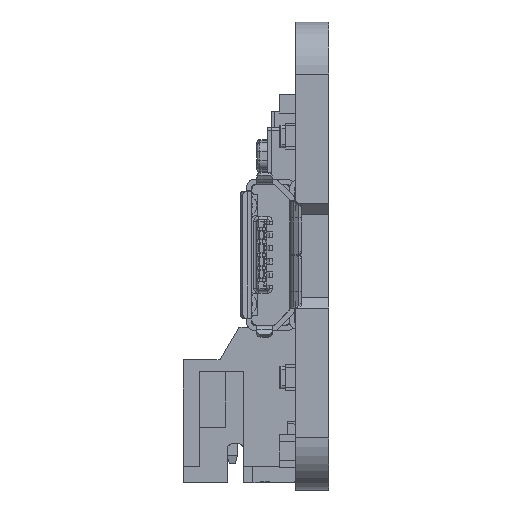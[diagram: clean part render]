
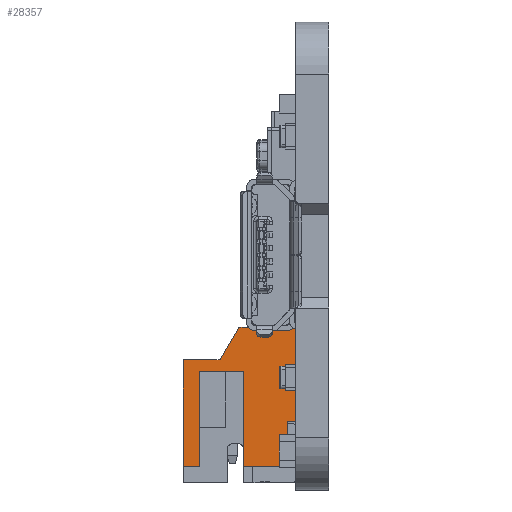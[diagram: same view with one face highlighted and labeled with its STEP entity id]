
A CAD part, left-side view. The second image highlights one B-rep face of the part: STEP entity #28357.
In plain terms, the highlighted planar face has unit normal (-1, 0, 0).
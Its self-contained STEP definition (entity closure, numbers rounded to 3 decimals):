
#485 = CARTESIAN_POINT ( 'NONE',  ( -18.555, 2.012, -11.074 ) ) ;
#1237 = LINE ( 'NONE', #485, #33543 ) ;
#1659 = CARTESIAN_POINT ( 'NONE',  ( -18.555, 7.112, -11.074 ) ) ;
#2902 = VECTOR ( 'NONE', #70101, 1000. ) ;
#2943 = EDGE_CURVE ( 'NONE', #24044, #7839, #72617, .T. ) ;
#3636 = ORIENTED_EDGE ( 'NONE', *, *, #55416, .F. ) ;
#4037 = CARTESIAN_POINT ( 'NONE',  ( -18.555, 2.012, -10.274 ) ) ;
#7839 = VERTEX_POINT ( 'NONE', #74209 ) ;
#8320 = CARTESIAN_POINT ( 'NONE',  ( -18.555, 6.317, -10.274 ) ) ;
#9697 = EDGE_CURVE ( 'NONE', #50331, #53173, #45381, .T. ) ;
#10991 = EDGE_LOOP ( 'NONE', ( #18279, #60196, #72659, #3636, #34858, #30157, #28756, #21202, #51177, #35950, #55588, #50421 ) ) ;
#12275 = DIRECTION ( 'NONE',  ( 0., 1., 0. ) ) ;
#12349 = LINE ( 'NONE', #58060, #29101 ) ;
#14482 = CARTESIAN_POINT ( 'NONE',  ( -18.555, 7.112, -3.474 ) ) ;
#15105 = DIRECTION ( 'NONE',  ( 0., -1., 0. ) ) ;
#15116 = LINE ( 'NONE', #66488, #46043 ) ;
#15514 = DIRECTION ( 'NONE',  ( 0., 1., 0. ) ) ;
#15588 = DIRECTION ( 'NONE',  ( 0., -1., 0. ) ) ;
#16760 = DIRECTION ( 'NONE',  ( 0., 1., 0. ) ) ;
#16904 = VECTOR ( 'NONE', #55076, 1000. ) ;
#17899 = AXIS2_PLACEMENT_3D ( 'NONE', #1659, #20176, #70774 ) ;
#18279 = ORIENTED_EDGE ( 'NONE', *, *, #9697, .F. ) ;
#19094 = VERTEX_POINT ( 'NONE', #37151 ) ;
#20176 = DIRECTION ( 'NONE',  ( 1., 0., 0. ) ) ;
#21202 = ORIENTED_EDGE ( 'NONE', *, *, #2943, .F. ) ;
#24044 = VERTEX_POINT ( 'NONE', #34379 ) ;
#24182 = VERTEX_POINT ( 'NONE', #64928 ) ;
#24938 = VECTOR ( 'NONE', #68325, 1000. ) ;
#28357 = ADVANCED_FACE ( 'NONE', ( #60559 ), #36791, .F. ) ;
#28756 = ORIENTED_EDGE ( 'NONE', *, *, #49623, .F. ) ;
#28838 = CARTESIAN_POINT ( 'NONE',  ( -18.555, 5.312, -5.074 ) ) ;
#29099 = CARTESIAN_POINT ( 'NONE',  ( -18.555, 2.012, -8.074 ) ) ;
#29101 = VECTOR ( 'NONE', #70122, 1000. ) ;
#29561 = DIRECTION ( 'NONE',  ( 0., 0., -1. ) ) ;
#30157 = ORIENTED_EDGE ( 'NONE', *, *, #45266, .T. ) ;
#30328 = VECTOR ( 'NONE', #33213, 1000. ) ;
#31023 = DIRECTION ( 'NONE',  ( 0., 0., -1. ) ) ;
#31405 = LINE ( 'NONE', #32512, #70354 ) ;
#32512 = CARTESIAN_POINT ( 'NONE',  ( -18.555, 7.112, -5.659 ) ) ;
#33027 = CARTESIAN_POINT ( 'NONE',  ( -18.555, 7.112, -5.074 ) ) ;
#33213 = DIRECTION ( 'NONE',  ( 0., -1., 0. ) ) ;
#33319 = EDGE_CURVE ( 'NONE', #24182, #53173, #49912, .T. ) ;
#33543 = VECTOR ( 'NONE', #29561, 1000. ) ;
#34379 = CARTESIAN_POINT ( 'NONE',  ( -18.555, 4.388, -3.474 ) ) ;
#34858 = ORIENTED_EDGE ( 'NONE', *, *, #62735, .F. ) ;
#35950 = ORIENTED_EDGE ( 'NONE', *, *, #58401, .T. ) ;
#36009 = VECTOR ( 'NONE', #15105, 1000. ) ;
#36791 = PLANE ( 'NONE',  #17899 ) ;
#37151 = CARTESIAN_POINT ( 'NONE',  ( -18.555, 4.162, -10.274 ) ) ;
#37978 = EDGE_CURVE ( 'NONE', #62322, #24182, #38058, .T. ) ;
#38058 = LINE ( 'NONE', #47152, #2902 ) ;
#41385 = CARTESIAN_POINT ( 'NONE',  ( -18.555, 7.112, -10.274 ) ) ;
#41505 = VERTEX_POINT ( 'NONE', #60332 ) ;
#42780 = CARTESIAN_POINT ( 'NONE',  ( -18.555, 1.612, -8.074 ) ) ;
#43879 = LINE ( 'NONE', #66828, #36009 ) ;
#44920 = LINE ( 'NONE', #50585, #16904 ) ;
#45266 = EDGE_CURVE ( 'NONE', #55858, #50557, #43879, .T. ) ;
#45381 = LINE ( 'NONE', #51411, #24938 ) ;
#46043 = VECTOR ( 'NONE', #31023, 1000. ) ;
#46257 = VECTOR ( 'NONE', #12275, 1000. ) ;
#46343 = LINE ( 'NONE', #41385, #46257 ) ;
#47152 = CARTESIAN_POINT ( 'NONE',  ( -18.555, 7.112, -3.474 ) ) ;
#48590 = EDGE_CURVE ( 'NONE', #19094, #41505, #44920, .T. ) ;
#49623 = EDGE_CURVE ( 'NONE', #7839, #50557, #15116, .T. ) ;
#49885 = EDGE_CURVE ( 'NONE', #61159, #24044, #12349, .T. ) ;
#49912 = LINE ( 'NONE', #50662, #30328 ) ;
#50331 = VERTEX_POINT ( 'NONE', #73001 ) ;
#50421 = ORIENTED_EDGE ( 'NONE', *, *, #33319, .T. ) ;
#50557 = VERTEX_POINT ( 'NONE', #42780 ) ;
#50585 = CARTESIAN_POINT ( 'NONE',  ( -18.555, 4.162, -11.074 ) ) ;
#50662 = CARTESIAN_POINT ( 'NONE',  ( -18.555, 1.612, -10.274 ) ) ;
#50743 = EDGE_CURVE ( 'NONE', #41505, #50331, #31405, .T. ) ;
#51177 = ORIENTED_EDGE ( 'NONE', *, *, #49885, .F. ) ;
#51411 = CARTESIAN_POINT ( 'NONE',  ( -18.555, 6.317, -11.074 ) ) ;
#53173 = VERTEX_POINT ( 'NONE', #8320 ) ;
#55076 = DIRECTION ( 'NONE',  ( 0., 0., 1. ) ) ;
#55416 = EDGE_CURVE ( 'NONE', #61766, #19094, #46343, .T. ) ;
#55588 = ORIENTED_EDGE ( 'NONE', *, *, #37978, .T. ) ;
#55858 = VERTEX_POINT ( 'NONE', #29099 ) ;
#57159 = LINE ( 'NONE', #28838, #59817 ) ;
#58060 = CARTESIAN_POINT ( 'NONE',  ( -18.555, 5.312, -5.074 ) ) ;
#58401 = EDGE_CURVE ( 'NONE', #61159, #62322, #57159, .T. ) ;
#59038 = CARTESIAN_POINT ( 'NONE',  ( -18.555, 5.312, -5.074 ) ) ;
#59817 = VECTOR ( 'NONE', #16760, 1000. ) ;
#60196 = ORIENTED_EDGE ( 'NONE', *, *, #50743, .F. ) ;
#60332 = CARTESIAN_POINT ( 'NONE',  ( -18.555, 4.162, -5.659 ) ) ;
#60559 = FACE_OUTER_BOUND ( 'NONE', #10991, .T. ) ;
#61159 = VERTEX_POINT ( 'NONE', #59038 ) ;
#61766 = VERTEX_POINT ( 'NONE', #4037 ) ;
#62322 = VERTEX_POINT ( 'NONE', #33027 ) ;
#62735 = EDGE_CURVE ( 'NONE', #55858, #61766, #1237, .T. ) ;
#63448 = VECTOR ( 'NONE', #15588, 1000. ) ;
#64928 = CARTESIAN_POINT ( 'NONE',  ( -18.555, 7.112, -10.274 ) ) ;
#66488 = CARTESIAN_POINT ( 'NONE',  ( -18.555, 1.612, -11.074 ) ) ;
#66828 = CARTESIAN_POINT ( 'NONE',  ( -18.555, 1.612, -8.074 ) ) ;
#68325 = DIRECTION ( 'NONE',  ( 0., 0., -1. ) ) ;
#70101 = DIRECTION ( 'NONE',  ( 0., 0., -1. ) ) ;
#70122 = DIRECTION ( 'NONE',  ( 0., -0.5, 0.866 ) ) ;
#70354 = VECTOR ( 'NONE', #15514, 1000. ) ;
#70774 = DIRECTION ( 'NONE',  ( 0., 0., -1. ) ) ;
#72617 = LINE ( 'NONE', #14482, #63448 ) ;
#72659 = ORIENTED_EDGE ( 'NONE', *, *, #48590, .F. ) ;
#73001 = CARTESIAN_POINT ( 'NONE',  ( -18.555, 6.317, -5.659 ) ) ;
#74209 = CARTESIAN_POINT ( 'NONE',  ( -18.555, 1.612, -3.474 ) ) ;
